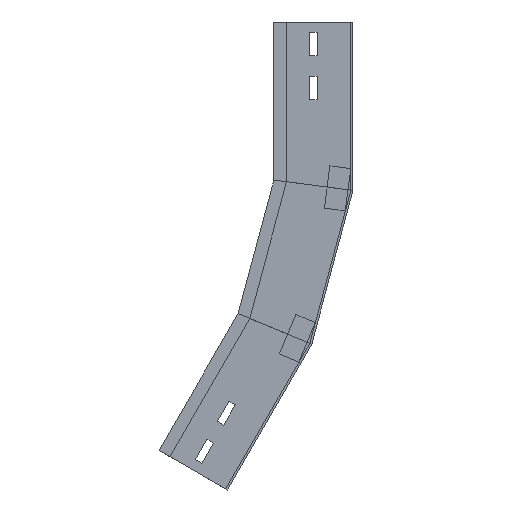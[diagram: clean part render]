
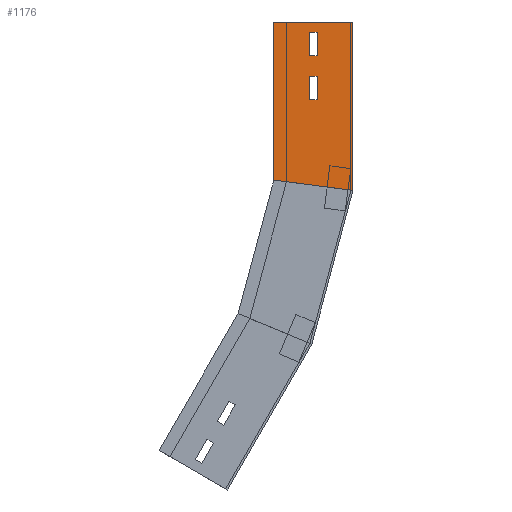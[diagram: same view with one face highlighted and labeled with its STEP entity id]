
A CAD part, left-side view. The second image highlights one B-rep face of the part: STEP entity #1176.
In plain terms, the highlighted planar face has unit normal (-1, 0, 0) as drawn and (1, 0, 0) by its records, which use the part's own axes.
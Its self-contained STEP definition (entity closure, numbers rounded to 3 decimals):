
#3 = LINE ( 'NONE', #112, #687 ) ;
#11 = EDGE_CURVE ( 'NONE', #1300, #27, #249, .T. ) ;
#21 = LINE ( 'NONE', #248, #454 ) ;
#22 = VECTOR ( 'NONE', #688, 1000. ) ;
#24 = VECTOR ( 'NONE', #1161, 1000. ) ;
#27 = VERTEX_POINT ( 'NONE', #1138 ) ;
#34 = ORIENTED_EDGE ( 'NONE', *, *, #1279, .F. ) ;
#58 = EDGE_CURVE ( 'NONE', #514, #670, #129, .T. ) ;
#112 = CARTESIAN_POINT ( 'NONE',  ( 0., 149.521, -414.842 ) ) ;
#115 = CARTESIAN_POINT ( 'NONE',  ( 0., 118.932, -443.859 ) ) ;
#118 = DIRECTION ( 'NONE',  ( 0., -0.866, -0.5 ) ) ;
#122 = EDGE_CURVE ( 'NONE', #1473, #1300, #21, .T. ) ;
#123 = DIRECTION ( 'NONE',  ( 0., 0.5, -0.866 ) ) ;
#124 = VECTOR ( 'NONE', #218, 1000. ) ;
#129 = LINE ( 'NONE', #115, #1443 ) ;
#138 = VECTOR ( 'NONE', #1486, 1000. ) ;
#153 = VERTEX_POINT ( 'NONE', #1256 ) ;
#155 = ORIENTED_EDGE ( 'NONE', *, *, #539, .F. ) ;
#166 = EDGE_CURVE ( 'NONE', #1109, #153, #680, .T. ) ;
#171 = CARTESIAN_POINT ( 'NONE',  ( 0., 39.082, -305.555 ) ) ;
#187 = CARTESIAN_POINT ( 'NONE',  ( 0., 39.082, -305.555 ) ) ;
#213 = ORIENTED_EDGE ( 'NONE', *, *, #1058, .F. ) ;
#218 = DIRECTION ( 'NONE',  ( 0., 0.5, -0.866 ) ) ;
#231 = CARTESIAN_POINT ( 'NONE',  ( 0., 118.932, -443.859 ) ) ;
#241 = ORIENTED_EDGE ( 'NONE', *, *, #58, .T. ) ;
#248 = CARTESIAN_POINT ( 'NONE',  ( 0., 138.521, -395.789 ) ) ;
#249 = LINE ( 'NONE', #917, #22 ) ;
#273 = VERTEX_POINT ( 'NONE', #620 ) ;
#288 = ORIENTED_EDGE ( 'NONE', *, *, #494, .F. ) ;
#310 = DIRECTION ( 'NONE',  ( -1., 0., 0. ) ) ;
#313 = EDGE_LOOP ( 'NONE', ( #780, #586, #241, #1078 ) ) ;
#332 = VECTOR ( 'NONE', #1272, 1000. ) ;
#335 = ORIENTED_EDGE ( 'NONE', *, *, #1463, .F. ) ;
#351 = LINE ( 'NONE', #1239, #124 ) ;
#371 = CARTESIAN_POINT ( 'NONE',  ( 0., 57.291, -298.012 ) ) ;
#393 = VERTEX_POINT ( 'NONE', #894 ) ;
#403 = DIRECTION ( 'NONE',  ( 0., 0.5, -0.866 ) ) ;
#416 = ORIENTED_EDGE ( 'NONE', *, *, #166, .F. ) ;
#454 = VECTOR ( 'NONE', #118, 1000. ) ;
#467 = DIRECTION ( 'NONE',  ( 0., 0.866, 0.5 ) ) ;
#488 = LINE ( 'NONE', #611, #1134 ) ;
#494 = EDGE_CURVE ( 'NONE', #273, #621, #1253, .T. ) ;
#514 = VERTEX_POINT ( 'NONE', #231 ) ;
#539 = EDGE_CURVE ( 'NONE', #27, #1170, #3, .T. ) ;
#556 = VECTOR ( 'NONE', #851, 1000. ) ;
#586 = ORIENTED_EDGE ( 'NONE', *, *, #1267, .T. ) ;
#606 = CARTESIAN_POINT ( 'NONE',  ( 0., 149.521, -414.842 ) ) ;
#608 = VECTOR ( 'NONE', #1093, 1000. ) ;
#611 = CARTESIAN_POINT ( 'NONE',  ( 0., 122.624, -382.254 ) ) ;
#620 = CARTESIAN_POINT ( 'NONE',  ( 0., 117.686, -359.702 ) ) ;
#621 = VERTEX_POINT ( 'NONE', #1414 ) ;
#632 = EDGE_LOOP ( 'NONE', ( #213, #416, #335, #288 ) ) ;
#636 = LINE ( 'NONE', #1456, #608 ) ;
#644 = LINE ( 'NONE', #1432, #1053 ) ;
#670 = VERTEX_POINT ( 'NONE', #827 ) ;
#680 = LINE ( 'NONE', #697, #138 ) ;
#687 = VECTOR ( 'NONE', #467, 1000. ) ;
#688 = DIRECTION ( 'NONE',  ( 0., 0.5, -0.866 ) ) ;
#697 = CARTESIAN_POINT ( 'NONE',  ( 0., 128.686, -378.754 ) ) ;
#780 = ORIENTED_EDGE ( 'NONE', *, *, #1076, .T. ) ;
#813 = CARTESIAN_POINT ( 'NONE',  ( 0., 117.686, -359.702 ) ) ;
#827 = CARTESIAN_POINT ( 'NONE',  ( 0., 183.884, -406.359 ) ) ;
#834 = LINE ( 'NONE', #371, #24 ) ;
#851 = DIRECTION ( 'NONE',  ( 0., -0.5, 0.866 ) ) ;
#894 = CARTESIAN_POINT ( 'NONE',  ( 0., 108.971, -276.606 ) ) ;
#917 = CARTESIAN_POINT ( 'NONE',  ( 0., 143.459, -418.342 ) ) ;
#943 = ORIENTED_EDGE ( 'NONE', *, *, #11, .F. ) ;
#996 = ORIENTED_EDGE ( 'NONE', *, *, #122, .F. ) ;
#997 = PLANE ( 'NONE',  #1150 ) ;
#1023 = CARTESIAN_POINT ( 'NONE',  ( 0., 132.459, -399.289 ) ) ;
#1027 = DIRECTION ( 'NONE',  ( 0., 0.866, 0.5 ) ) ;
#1053 = VECTOR ( 'NONE', #403, 1000. ) ;
#1058 = EDGE_CURVE ( 'NONE', #153, #273, #1275, .T. ) ;
#1069 = CARTESIAN_POINT ( 'NONE',  ( 0., 138.521, -395.789 ) ) ;
#1072 = CARTESIAN_POINT ( 'NONE',  ( 0., 128.686, -378.754 ) ) ;
#1076 = EDGE_CURVE ( 'NONE', #393, #1254, #834, .T. ) ;
#1078 = ORIENTED_EDGE ( 'NONE', *, *, #1312, .F. ) ;
#1093 = DIRECTION ( 'NONE',  ( 0., -0.5, 0.866 ) ) ;
#1109 = VERTEX_POINT ( 'NONE', #1185 ) ;
#1111 = FACE_BOUND ( 'NONE', #632, .T. ) ;
#1134 = VECTOR ( 'NONE', #123, 1000. ) ;
#1138 = CARTESIAN_POINT ( 'NONE',  ( 0., 143.459, -418.342 ) ) ;
#1150 = AXIS2_PLACEMENT_3D ( 'NONE', #171, #310, #1448 ) ;
#1161 = DIRECTION ( 'NONE',  ( 0., -0.924, -0.383 ) ) ;
#1170 = VERTEX_POINT ( 'NONE', #606 ) ;
#1176 = ADVANCED_FACE ( 'NONE', ( #1318, #1111, #1335 ), #997, .F. ) ;
#1185 = CARTESIAN_POINT ( 'NONE',  ( 0., 122.624, -382.254 ) ) ;
#1239 = CARTESIAN_POINT ( 'NONE',  ( 0., 104.034, -268.055 ) ) ;
#1253 = LINE ( 'NONE', #813, #332 ) ;
#1254 = VERTEX_POINT ( 'NONE', #187 ) ;
#1256 = CARTESIAN_POINT ( 'NONE',  ( 0., 128.686, -378.754 ) ) ;
#1267 = EDGE_CURVE ( 'NONE', #1254, #514, #644, .T. ) ;
#1272 = DIRECTION ( 'NONE',  ( 0., -0.866, -0.5 ) ) ;
#1275 = LINE ( 'NONE', #1072, #556 ) ;
#1279 = EDGE_CURVE ( 'NONE', #1170, #1473, #636, .T. ) ;
#1300 = VERTEX_POINT ( 'NONE', #1023 ) ;
#1312 = EDGE_CURVE ( 'NONE', #393, #670, #351, .T. ) ;
#1318 = FACE_BOUND ( 'NONE', #1426, .T. ) ;
#1335 = FACE_OUTER_BOUND ( 'NONE', #313, .T. ) ;
#1414 = CARTESIAN_POINT ( 'NONE',  ( 0., 111.624, -363.202 ) ) ;
#1426 = EDGE_LOOP ( 'NONE', ( #34, #155, #943, #996 ) ) ;
#1432 = CARTESIAN_POINT ( 'NONE',  ( 0., 39.082, -305.555 ) ) ;
#1443 = VECTOR ( 'NONE', #1027, 1000. ) ;
#1448 = DIRECTION ( 'NONE',  ( 0., 0., 1. ) ) ;
#1456 = CARTESIAN_POINT ( 'NONE',  ( 0., 149.521, -414.842 ) ) ;
#1463 = EDGE_CURVE ( 'NONE', #621, #1109, #488, .T. ) ;
#1473 = VERTEX_POINT ( 'NONE', #1069 ) ;
#1486 = DIRECTION ( 'NONE',  ( 0., 0.866, 0.5 ) ) ;
